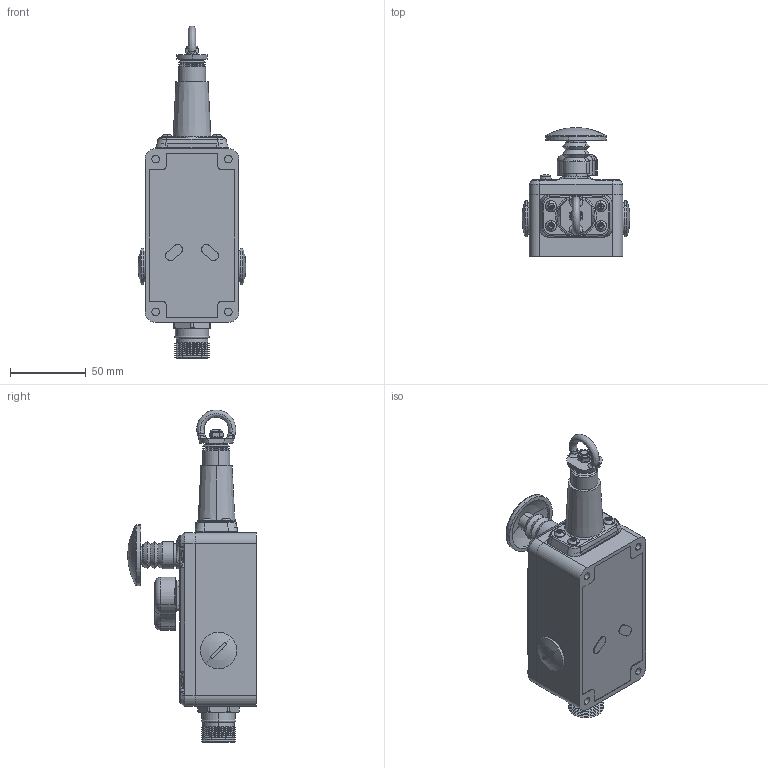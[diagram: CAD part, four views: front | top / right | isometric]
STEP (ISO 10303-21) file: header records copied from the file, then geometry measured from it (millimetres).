
FILE_DESCRIPTION((''),'2;1');
FILE_NAME('LIFELINE4','2007-09-06T',('jcarval'),('Rockwell Automation'),'PRO/ENGINEER BY PARAMETRIC TECHNOLOGY CORPORATION, 2005110','PRO/ENGINEER BY PARAMETRIC TECHNOLOGY CORPORATION, 2005110','');
FILE_SCHEMA(('CONFIG_CONTROL_DESIGN'));
Length unit declared in the file: millimetre
Products named in the file (1): LIFELINE4
Bounding box: 71.37 x 85.1 x 219.51 mm (x, y, z)
Volume: 4776.4 mm3; surface area: 104104.3 mm2
Topology: 1 solids, 26 shells, 1610 faces, 3608 edges, 2131 vertices
Faces by surface type: cylinder 606, cone 429, plane 328, torus 102, bspline 89, sphere 56
Entity records: 52797 total; most frequent: CARTESIAN_POINT 16742, DIRECTION 8199, ORIENTED_EDGE 7084, EDGE_CURVE 3542, AXIS2_PLACEMENT_3D 3441, VERTEX_POINT 2131, CIRCLE 1919, EDGE_LOOP 1797
